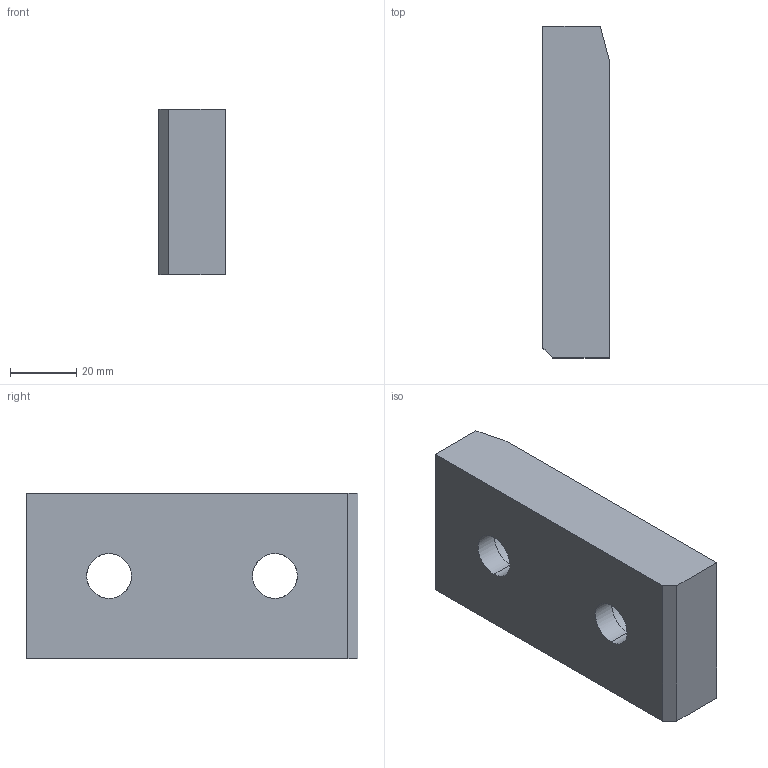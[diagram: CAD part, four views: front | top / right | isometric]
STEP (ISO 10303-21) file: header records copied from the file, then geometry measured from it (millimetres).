
FILE_DESCRIPTION(('CATIA V5 STEP Exchange'),'2;1');
FILE_NAME('C:\Users\borellobunino\Desktop\3D X SITO CF\A915\GSB_OILLESS_G22501050100\A915-50X100.stp','2019-07-14T12:34:01+00:00',('none'),('none'),'CATIA Version 5 Release 20 GA (IN-10)','CATIA V5 STEP AP203','none');
FILE_SCHEMA(('CONFIG_CONTROL_DESIGN'));
Length unit declared in the file: millimetre
Products named in the file (1): A915-50X100
Bounding box: 20 x 100 x 50 mm (x, y, z)
Volume: 88673.1 mm3; surface area: 17260.6 mm2
Topology: 1 solids, 1 shells, 23 faces, 73 edges, 54 vertices
Faces by surface type: plane 10, cylinder 9, torus 4
Entity records: 1057 total; most frequent: CARTESIAN_POINT 375, ORIENTED_EDGE 146, DIRECTION 103, EDGE_CURVE 73, AXIS2_PLACEMENT_3D 54, VERTEX_POINT 54, CIRCLE 30, EDGE_LOOP 29
